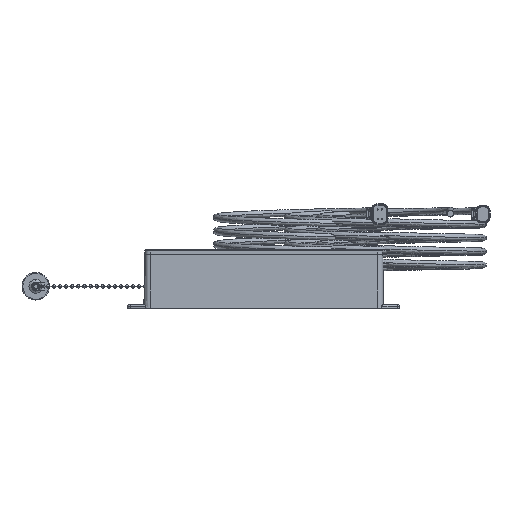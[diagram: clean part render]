
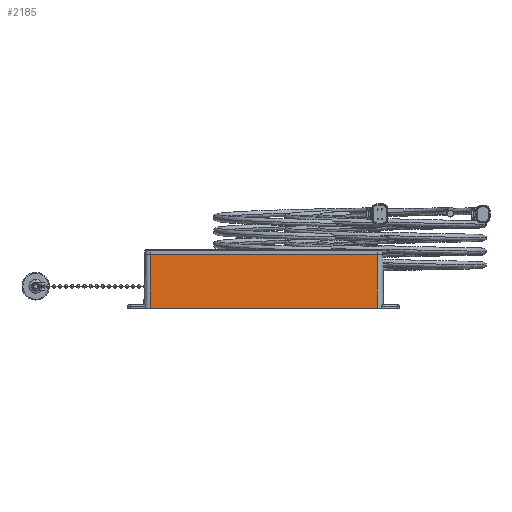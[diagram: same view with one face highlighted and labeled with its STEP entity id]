
A CAD part, left-side view. The second image highlights one B-rep face of the part: STEP entity #2185.
In plain terms, the highlighted planar face has unit normal (-1, 0, 0.018).
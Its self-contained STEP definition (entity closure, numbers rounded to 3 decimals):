
#263 = EDGE_LOOP ( 'NONE', ( #34023, #34024, #34025, #34026 ) ) ;
#2185 = ADVANCED_FACE ( 'NONE', ( #34416 ), #10939, .T. ) ;
#9627 = DIRECTION ( 'NONE',  ( 0.017, 0., 1. ) ) ;
#9628 = CARTESIAN_POINT ( 'NONE',  ( -2.908, 4.183, 0. ) ) ;
#9639 = DIRECTION ( 'NONE',  ( 0., 1., 0. ) ) ;
#9640 = CARTESIAN_POINT ( 'NONE',  ( -2.874, -4.183, 1.969 ) ) ;
#9641 = CARTESIAN_POINT ( 'NONE',  ( -2.874, 0., 1.969 ) ) ;
#9645 = DIRECTION ( 'NONE',  ( 0., 1., 0. ) ) ;
#9745 = CARTESIAN_POINT ( 'NONE',  ( -345.825, 4.183, -19645.669 ) ) ;
#9746 = DIRECTION ( 'NONE',  ( 0.017, 0., 1. ) ) ;
#10551 = AXIS2_PLACEMENT_3D ( 'NONE', #10935, #10941, #10942 ) ;
#10935 = CARTESIAN_POINT ( 'NONE',  ( -2.874, 0., 1.969 ) ) ;
#10939 = PLANE ( 'NONE',  #10551 ) ;
#10941 = DIRECTION ( 'NONE',  ( -1., 0., 0.017 ) ) ;
#10942 = DIRECTION ( 'NONE',  ( -0.017, 0., -1. ) ) ;
#17100 = LINE ( 'NONE', #9641, #17132 ) ;
#17117 = LINE ( 'NONE', #9628, #17119 ) ;
#17119 = VECTOR ( 'NONE', #9639, 39.37 ) ;
#17124 = LINE ( 'NONE', #9640, #17128 ) ;
#17128 = VECTOR ( 'NONE', #9627, 39.37 ) ;
#17132 = VECTOR ( 'NONE', #9645, 39.37 ) ;
#17226 = LINE ( 'NONE', #9745, #17232 ) ;
#17232 = VECTOR ( 'NONE', #9746, 39.37 ) ;
#24652 = EDGE_CURVE ( 'NONE', #32160, #32158, #17117, .T. ) ;
#24654 = EDGE_CURVE ( 'NONE', #32160, #32162, #17124, .T. ) ;
#24655 = EDGE_CURVE ( 'NONE', #32162, #32163, #17100, .T. ) ;
#24688 = EDGE_CURVE ( 'NONE', #32158, #32163, #17226, .T. ) ;
#32158 = VERTEX_POINT ( 'NONE', #32744 ) ;
#32160 = VERTEX_POINT ( 'NONE', #32746 ) ;
#32162 = VERTEX_POINT ( 'NONE', #32748 ) ;
#32163 = VERTEX_POINT ( 'NONE', #32749 ) ;
#32744 = CARTESIAN_POINT ( 'NONE',  ( -2.908, 4.183, 0. ) ) ;
#32746 = CARTESIAN_POINT ( 'NONE',  ( -2.908, -4.183, 0. ) ) ;
#32748 = CARTESIAN_POINT ( 'NONE',  ( -2.874, -4.183, 1.969 ) ) ;
#32749 = CARTESIAN_POINT ( 'NONE',  ( -2.874, 4.183, 1.969 ) ) ;
#34023 = ORIENTED_EDGE ( 'NONE', *, *, #24655, .T. ) ;
#34024 = ORIENTED_EDGE ( 'NONE', *, *, #24688, .F. ) ;
#34025 = ORIENTED_EDGE ( 'NONE', *, *, #24652, .F. ) ;
#34026 = ORIENTED_EDGE ( 'NONE', *, *, #24654, .T. ) ;
#34416 = FACE_OUTER_BOUND ( 'NONE', #263, .T. ) ;
